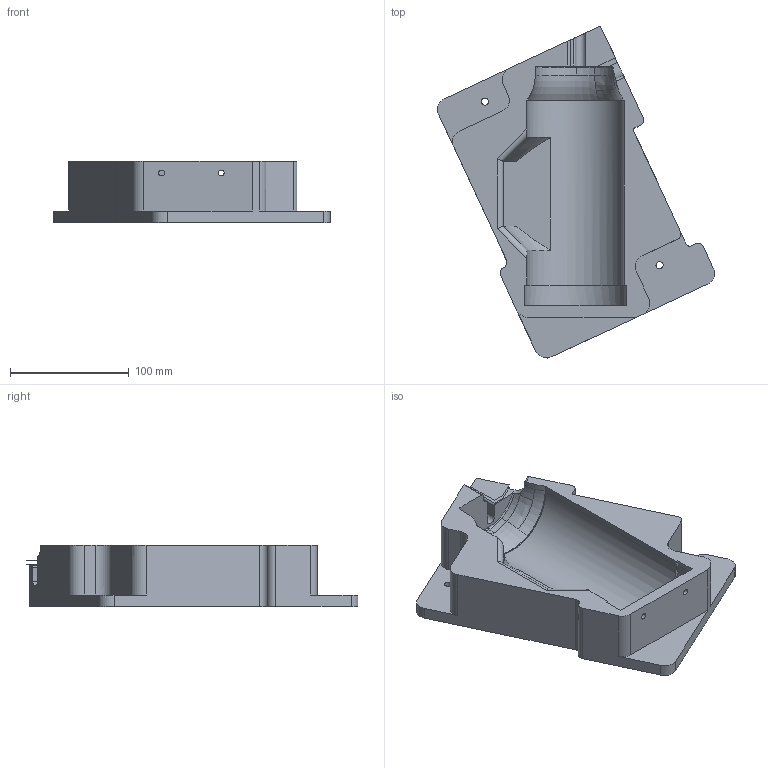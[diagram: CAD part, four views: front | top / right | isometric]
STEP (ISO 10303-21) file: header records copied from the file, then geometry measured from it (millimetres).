
FILE_DESCRIPTION(('CATIA V5 STEP Exchange'),'2;1');
FILE_NAME('D:\姚明阳\1、工装图纸\AGZ131\AGZ131.04_V2.stp','2025-06-28T07:47:11+00:00',('none'),('none'),'CATIA Version 5 Release 21 GA (IN-10)','CATIA V5 STEP AP214','none');
FILE_SCHEMA(('AUTOMOTIVE_DESIGN { 1 0 10303 214 1 1 1 1 }'));
Length unit declared in the file: millimetre
Products named in the file (1): AGZ131.04_V2
Bounding box: 233.14 x 279.39 x 52 mm (x, y, z)
Volume: 897908.6 mm3; surface area: 130171.1 mm2
Topology: 1 solids, 3 shells, 106 faces, 312 edges, 210 vertices
Faces by surface type: cylinder 43, plane 43, torus 6, extrusion 6, revolution 5, cone 3
Entity records: 3717 total; most frequent: CARTESIAN_POINT 1024, ORIENTED_EDGE 614, DIRECTION 419, EDGE_CURVE 312, VERTEX_POINT 210, AXIS2_PLACEMENT_3D 167, VECTOR 163, LINE 157
